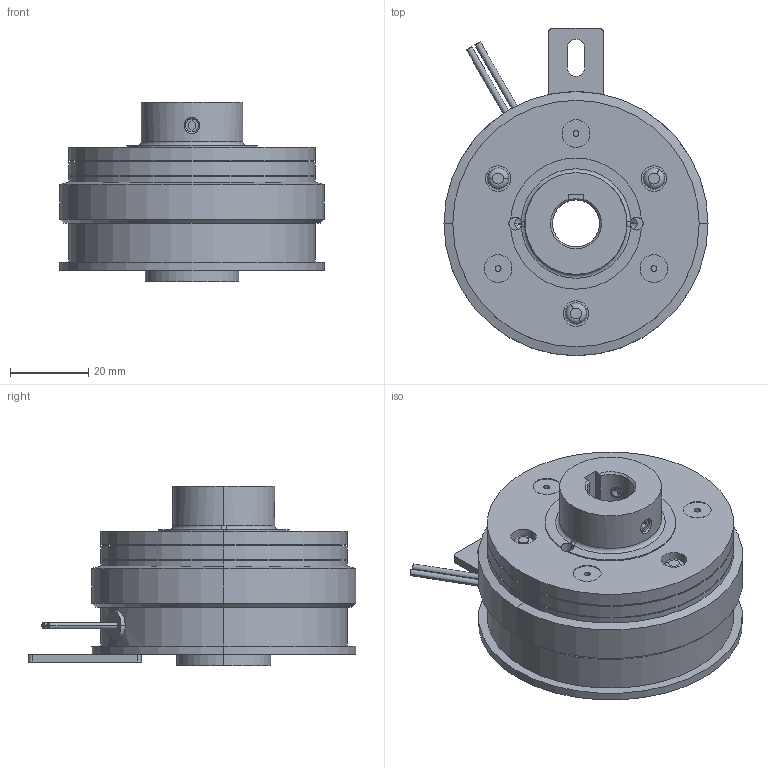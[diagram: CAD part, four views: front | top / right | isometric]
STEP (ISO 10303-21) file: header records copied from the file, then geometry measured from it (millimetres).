
FILE_DESCRIPTION (( 'STEP AP214' ), '1' );
FILE_NAME ('CS-06-31G R12DIN A12DIN.STEP', '2018-02-02T07:48:06', ( 'MIKI' ), ( '' ), 'SwSTEP 2.0', 'SolidWorks 2012', '' );
FILE_SCHEMA (( 'AUTOMOTIVE_DESIGN' ));
Length unit declared in the file: millimetre
Products named in the file (1): CS-06-31G R12DIN A12DIN
Bounding box: 67.5 x 83.75 x 46 mm (x, y, z)
Volume: 100402.1 mm3; surface area: 30159.3 mm2
Topology: 1 solids, 6 shells, 244 faces, 540 edges, 340 vertices
Faces by surface type: cylinder 114, plane 78, cone 36, torus 14, bspline 2
Entity records: 9830 total; most frequent: CARTESIAN_POINT 1517, DIRECTION 1282, ORIENTED_EDGE 1064, EDGE_CURVE 532, AXIS2_PLACEMENT_3D 529, VERTEX_POINT 340, EDGE_LOOP 296, CIRCLE 286
